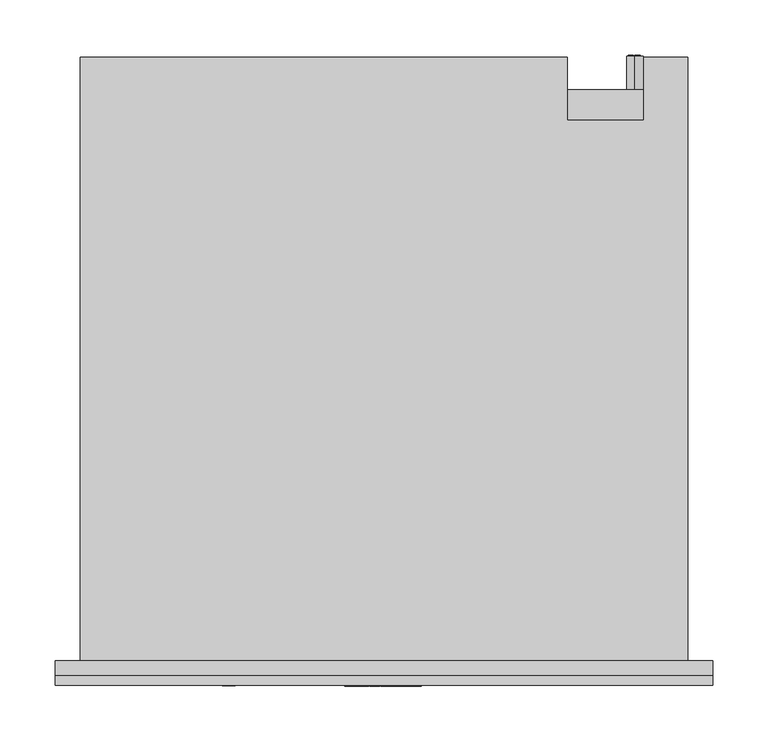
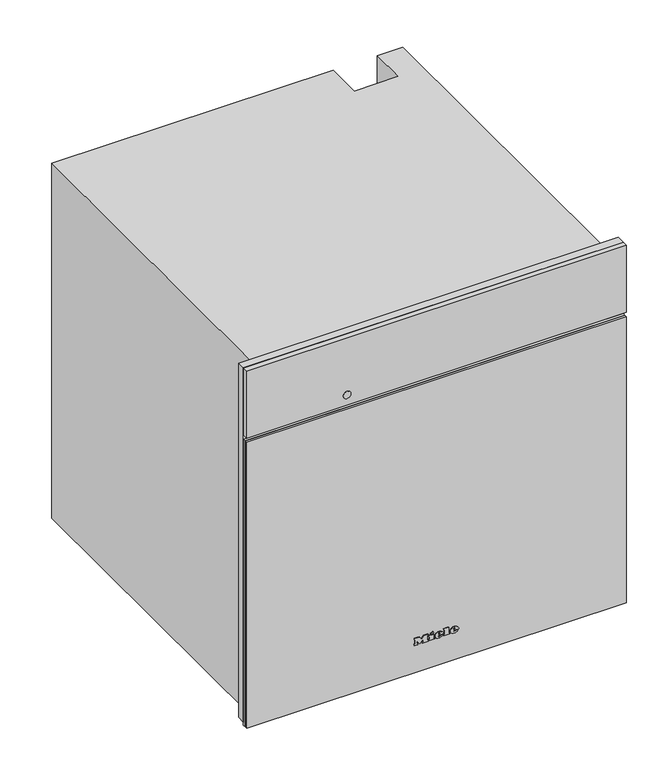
"""IFC4 building model written with IfcOpenShell, lengths in millimetres: proxy geometry, 11107290_D_DGC7860X_GRGR : 23786073_D_11107290_DGC7860X_GRGR."""

from ifc_helpers import new_model, si_unit, point, frame, frame_2d, origin, place, context, project, spatial, polyline, circle_curve, ellipse_curve, trimmed, segment, composite_curve, outline, extrude, faceted_brep, source, transform, mapped, element, save
from ifc_brep_helpers import plane_surface, cylinder_surface, revolved_surface, extruded_surface, advanced_brep


def specialty_equipment_f0ab52e3(model_context):
    return source(origin(), model_context, "Body", "SolidModel", [
        extrude(outline(polyline([(596.0, 297.5), (596.0, -297.5), (9.0, -297.5), (9.0, 297.5), (596.0, 297.5)]), holes=[polyline([(485.0, -272.5), (485.0, 272.5), (27.0, 272.5), (27.0, -272.5), (485.0, -272.5)])]), frame((0.0, -13.0, 0.0), z_axis=(0.0, 1.0, 0.0), x_axis=(0.0, 0.0, 1.0)), (0.0, 0.0, 1.0), 13.0),
        advanced_brep(
        [(227.0, 547.0, 396.5), (227.0, 547.0, 381.5), (221.4098301, 547.0, 384.0), (225.5, 547.0, 384.0), (225.5, 547.0, 394.0), (224.4955303, 547.0, 394.0), (224.4955303, 547.0, 385.0), (221.0315043, 547.0, 385.0), (221.0315043, 547.0, 384.4582978), (232.0, 547.0, 384.0), (232.0, 547.0, 394.0), (227.0, 547.0, 394.0), (227.0, 547.0, 393.0), (231.0, 547.0, 393.0), (231.0, 547.0, 389.5), (228.0, 547.0, 389.5), (228.0, 547.0, 388.5), (231.0, 547.0, 388.5), (231.0, 547.0, 385.0), (227.0, 547.0, 385.0), (227.0, 547.0, 384.0), (227.0, 517.0, 381.5), (227.0, 517.0, 396.5), (232.0, 548.0, 394.0), (232.0, 548.0, 384.0), (227.0, 548.0, 384.0), (227.0, 548.0, 385.0), (231.0, 548.0, 385.0), (231.0, 548.0, 388.5), (228.0, 548.0, 388.5), (228.0, 548.0, 389.5), (231.0, 548.0, 389.5), (231.0, 548.0, 393.0), (227.0, 548.0, 393.0), (227.0, 548.0, 394.0), (225.5, 548.0, 384.0), (221.0315043, 548.0, 384.0), (221.0315043, 548.0, 385.0), (224.4955303, 548.0, 385.0), (224.4955303, 548.0, 394.0), (225.5, 548.0, 394.0), (221.0315043, 547.0, 384.0)],
        [
            (0, 1, circle_curve(frame((227.0, 547.0, 389.0), z_axis=(0.0, 1.0, 0.0), x_axis=(0.0, 0.0, 1.0)), 7.5)),
            (1, 2, circle_curve(frame((227.0, 547.0, 389.0), z_axis=(0.0, 1.0, 0.0), x_axis=(0.0, 0.0, 1.0)), 7.5)),
            (2, 3),
            (3, 4),
            (4, 5),
            (5, 6),
            (6, 7),
            (7, 8),
            (8, 0, circle_curve(frame((227.0, 547.0, 389.0), z_axis=(0.0, 1.0, 0.0), x_axis=(0.0, 0.0, 1.0)), 7.5)),
            (9, 10),
            (10, 11),
            (11, 12),
            (12, 13),
            (13, 14),
            (14, 15),
            (15, 16),
            (16, 17),
            (17, 18),
            (18, 19),
            (19, 20),
            (20, 9),
            (21, 22, circle_curve(frame((227.0, 517.0, 389.0), z_axis=(0.0, -1.0, 0.0), x_axis=(0.0, 0.0, 1.0)), 7.5)),
            (22, 21, circle_curve(frame((227.0, 517.0, 389.0), z_axis=(0.0, -1.0, 0.0), x_axis=(0.0, 0.0, 1.0)), 7.5)),
            (0, 22),
            (21, 1),
            (8, 2, circle_curve(frame((227.0, 547.0, 389.0), z_axis=(0.0, -1.0, 0.0), x_axis=(0.0, 0.0, 1.0)), 7.5)),
            (23, 24),
            (24, 25),
            (25, 26),
            (26, 27),
            (27, 28),
            (28, 29),
            (29, 30),
            (30, 31),
            (31, 32),
            (32, 33),
            (33, 34),
            (34, 23),
            (35, 36),
            (36, 37),
            (37, 38),
            (38, 39),
            (39, 40),
            (40, 35),
            (8, 41),
            (41, 2),
            (23, 10),
            (9, 24),
            (20, 25),
            (19, 26),
            (18, 27),
            (17, 28),
            (16, 29),
            (15, 30),
            (14, 31),
            (13, 32),
            (12, 33),
            (11, 34),
            (35, 3),
            (41, 36),
            (7, 37),
            (6, 38),
            (5, 39),
            (4, 40),
        ],
        [
            plane_surface(frame((227.0, 547.0, 396.5), z_axis=(0.0, 1.0, 0.0), x_axis=(1.0, 0.0, 0.0))),
            plane_surface(frame((227.0, 517.0, 396.5), z_axis=(0.0, -1.0, 0.0), x_axis=(-1.0, 0.0, 0.0))),
            cylinder_surface(frame((227.0, 547.0, 389.0), z_axis=(0.0, -1.0, 0.0), x_axis=(0.0, 0.0, 1.0)), 7.5),
            plane_surface(frame((232.0, 548.0, 394.0), z_axis=(0.0, 1.0, 0.0), x_axis=(0.0, 0.0, -1.0))),
            plane_surface(frame((232.0, 547.0, 394.0), z_axis=(0.0, -1.0, 0.0), x_axis=(0.0, 0.0, 1.0))),
            plane_surface(frame((232.0, 548.0, 394.0), z_axis=(1.0, 0.0, 0.0), x_axis=(0.0, -1.0, 0.0))),
            plane_surface(frame((232.0, 548.0, 384.0), z_axis=(0.0, 0.0, -1.0), x_axis=(0.0, -1.0, 0.0))),
            plane_surface(frame((227.0, 548.0, 384.0), z_axis=(-1.0, 0.0, 0.0), x_axis=(0.0, -1.0, 0.0))),
            plane_surface(frame((227.0, 548.0, 385.0), z_axis=(0.0, 0.0, 1.0), x_axis=(0.0, -1.0, 0.0))),
            plane_surface(frame((231.0, 548.0, 385.0), z_axis=(-1.0, 0.0, 0.0), x_axis=(0.0, -1.0, 0.0))),
            plane_surface(frame((231.0, 548.0, 388.5), z_axis=(0.0, 0.0, -1.0), x_axis=(0.0, -1.0, 0.0))),
            plane_surface(frame((228.0, 548.0, 388.5), z_axis=(-1.0, 0.0, 0.0), x_axis=(0.0, -1.0, 0.0))),
            plane_surface(frame((228.0, 548.0, 389.5), z_axis=(0.0, 0.0, 1.0), x_axis=(0.0, -1.0, 0.0))),
            plane_surface(frame((231.0, 548.0, 389.5), z_axis=(-1.0, 0.0, 0.0), x_axis=(0.0, -1.0, 0.0))),
            plane_surface(frame((231.0, 548.0, 393.0), z_axis=(0.0, 0.0, -1.0), x_axis=(0.0, -1.0, 0.0))),
            plane_surface(frame((227.0, 548.0, 393.0), z_axis=(-1.0, 0.0, 0.0), x_axis=(0.0, -1.0, 0.0))),
            plane_surface(frame((227.0, 548.0, 394.0), z_axis=(0.0, 0.0, 1.0), x_axis=(0.0, -1.0, 0.0))),
            plane_surface(frame((225.5, 548.0, 384.0), z_axis=(0.0, 0.0, -1.0), x_axis=(0.0, -1.0, 0.0))),
            plane_surface(frame((221.0315043, 548.0, 384.0), z_axis=(-1.0, 0.0, 0.0), x_axis=(0.0, -1.0, 0.0))),
            plane_surface(frame((221.0315043, 548.0, 385.0), z_axis=(0.0, 0.0, 1.0), x_axis=(0.0, -1.0, 0.0))),
            plane_surface(frame((224.4955303, 548.0, 385.0), z_axis=(-1.0, 0.0, 0.0), x_axis=(0.0, -1.0, 0.0))),
            plane_surface(frame((224.4955303, 548.0, 394.0), z_axis=(0.0, 0.0, 1.0), x_axis=(0.0, -1.0, 0.0))),
            plane_surface(frame((225.5, 548.0, 394.0), z_axis=(1.0, 0.0, 0.0), x_axis=(0.0, -1.0, 0.0))),
        ],
        [
            (0, [[1, 2, 3, 4, 5, 6, 7, 8, 9], [10, 11, 12, 13, 14, 15, 16, 17, 18, 19, 20, 21]]),
            (1, [[22, 23]]),
            (2, [[-1, 24, -22, 25]]),
            (2, [[-23, -24, -9, 26, -2, -25]]),
            (3, [[27, 28, 29, 30, 31, 32, 33, 34, 35, 36, 37, 38]]),
            (3, [[39, 40, 41, 42, 43, 44]]),
            (4, [[45, 46, -26]]),
            (5, [[-27, 47, -10, 48]]),
            (6, [[-28, -48, -21, 49]]),
            (7, [[-29, -49, -20, 50]]),
            (8, [[-30, -50, -19, 51]]),
            (9, [[-31, -51, -18, 52]]),
            (10, [[-32, -52, -17, 53]]),
            (11, [[-33, -53, -16, 54]]),
            (12, [[-34, -54, -15, 55]]),
            (13, [[-35, -55, -14, 56]]),
            (14, [[-36, -56, -13, 57]]),
            (15, [[-37, -57, -12, 58]]),
            (16, [[-38, -58, -11, -47]]),
            (17, [[-39, 59, -3, -46, 60]]),
            (18, [[-40, -60, -45, -8, 61]]),
            (19, [[-41, -61, -7, 62]]),
            (20, [[-42, -62, -6, 63]]),
            (21, [[-43, -63, -5, 64]]),
            (22, [[-44, -64, -4, -59]]),
        ],
    ),
        faceted_brep([(-275.0, 546.0, 0.0), (-275.0, 546.0, 588.0), (166.0, 546.0, 588.0), (166.0, 546.0, 0.0), (235.0, 546.0, 588.0), (275.0, 546.0, 588.0), (275.0, 546.0, 478.0), (235.0, 546.0, 478.0), (275.0, 0.0, 588.0), (-275.0, 0.0, 588.0), (-275.0, 0.0, 0.0), (275.0, 0.0, 0.0), (-272.5, 0.0, 485.0), (272.5, 0.0, 485.0), (272.5, 0.0, 27.0), (-272.5, 0.0, 27.0), (235.0, 489.0, 588.0), (166.0, 489.0, 588.0), (166.0, 517.0, 0.0), (275.0, 517.0, 0.0), (275.0, 517.0, 478.0), (272.5, 17.0, 485.0), (-272.5, 17.0, 485.0), (-272.5, 17.0, 27.0), (272.5, 17.0, 27.0), (231.0, 17.0, 409.0), (231.0, 17.0, 61.0), (-231.0, 17.0, 61.0), (-231.0, 17.0, 409.0), (231.0, 411.0, 409.0), (-231.0, 411.0, 409.0), (-231.0, 411.0, 61.0), (231.0, 411.0, 61.0), (235.0, 489.0, 477.0), (166.0, 489.0, 477.0), (166.0, 517.0, 477.0), (235.0, 517.0, 477.0), (235.0, 517.0, 478.0)], [[[0, 1, 2, 3]], [[4, 5, 6, 7]], [[8, 9, 10, 11], [12, 13, 14, 15]], [[9, 8, 5, 4, 16, 17, 2, 1]], [[1, 0, 10, 9]], [[11, 10, 0, 3, 18, 19]], [[8, 11, 19, 20, 6, 5]], [[21, 22, 23, 24], [25, 26, 27, 28]], [[22, 21, 13, 12]], [[23, 22, 12, 15]], [[24, 23, 15, 14]], [[21, 24, 14, 13]], [[29, 30, 31, 32]], [[29, 32, 26, 25]], [[32, 31, 27, 26]], [[31, 30, 28, 27]], [[30, 29, 25, 28]], [[16, 33, 34, 17]], [[17, 34, 35, 18, 3, 2]], [[34, 33, 36, 35]], [[33, 16, 4, 7, 37, 36]], [[37, 20, 19, 18, 35, 36]], [[20, 37, 7, 6]]]),
        advanced_brep(
        [(26.2998, -23.0, 52.7018), (26.2998, -23.0, 53.8532), (33.9264, -23.0, 53.8532), (20.6568, -23.0, 53.8532), (23.7918, -23.0, 50.0), (33.7326, -23.0, 52.7018), (30.2898, -23.0, 52.7018), (27.5766, -23.0, 51.425), (26.2998, -23.0, 55.3124), (26.2998, -23.0, 56.555), (28.2492, -23.0, 56.555), (28.2492, -23.0, 55.3124), (26.2998, -22.0, 52.7018), (27.5766, -22.0, 51.425), (30.2898, -22.0, 52.7018), (33.7326, -22.0, 52.7018), (23.7918, -22.0, 50.0), (20.6568, -22.0, 53.8532), (33.9264, -22.0, 53.8532), (26.2998, -22.0, 53.8532), (26.2998, -22.0, 55.3124), (28.2492, -22.0, 55.3124), (28.2492, -22.0, 56.555), (26.2998, -22.0, 56.555)],
        [
            (0, 1),
            (1, 2),
            (2, 3, ellipse_curve(frame((27.2916, -23.0, 53.8532), z_axis=(0.0, -1.0, 0.0), x_axis=(-1.0, 0.0, 0.0)), 6.6348, 5.4834)),
            (3, 4, circle_curve(frame((25.0686622, -23.0, 54.2408), z_axis=(0.0, -1.0, 0.0), x_axis=(0.0, 0.0, -1.0)), 4.4288556)),
            (4, 5, circle_curve(frame((27.1587808, -23.0, 57.2504), z_axis=(0.0, -1.0, 0.0), x_axis=(0.0, 0.0, -1.0)), 7.9940516)),
            (5, 6),
            (6, 7, circle_curve(frame((28.1338588, -23.0, 53.762), z_axis=(0.0, 1.0, 0.0), x_axis=(0.0, 0.0, -1.0)), 2.4025208)),
            (7, 0, circle_curve(frame((27.5766, -23.0, 52.7018), z_axis=(0.0, 1.0, 0.0), x_axis=(0.0, 0.0, -1.0)), 1.2768)),
            (8, 9),
            (9, 10, circle_curve(frame((27.2745, -23.0, 56.555), z_axis=(0.0, 1.0, 0.0), x_axis=(0.0, 0.0, -1.0)), 0.9747)),
            (10, 11),
            (11, 8),
            (12, 13, circle_curve(frame((27.5766, -22.0, 52.7018), z_axis=(0.0, -1.0, 0.0), x_axis=(0.0, 0.0, -1.0)), 1.2768)),
            (13, 14, circle_curve(frame((28.1338588, -22.0, 53.762), z_axis=(0.0, -1.0, 0.0), x_axis=(0.0, 0.0, -1.0)), 2.4025208)),
            (14, 15),
            (15, 16, circle_curve(frame((27.1587808, -22.0, 57.2504), z_axis=(0.0, 1.0, 0.0), x_axis=(0.0, 0.0, -1.0)), 7.9940516)),
            (16, 17, circle_curve(frame((25.0686622, -22.0, 54.2408), z_axis=(0.0, 1.0, 0.0), x_axis=(0.0, 0.0, -1.0)), 4.4288556)),
            (17, 18, ellipse_curve(frame((27.2916, -22.0, 53.8532), z_axis=(0.0, 1.0, 0.0), x_axis=(-1.0, 0.0, 0.0)), 6.6348, 5.4834)),
            (18, 19),
            (19, 12),
            (20, 21),
            (21, 22),
            (22, 23, circle_curve(frame((27.2745, -22.0, 56.555), z_axis=(0.0, -1.0, 0.0), x_axis=(0.0, 0.0, -1.0)), 0.9747)),
            (23, 20),
            (0, 12),
            (19, 1),
            (18, 2),
            (5, 15),
            (14, 6),
            (17, 3),
            (13, 7),
            (16, 4),
            (8, 20),
            (23, 9),
            (22, 10),
            (21, 11),
        ],
        [
            plane_surface(frame((26.2998, -23.0, 53.8532), z_axis=(0.0, -1.0, 0.0), x_axis=(0.0, 0.0, 1.0))),
            plane_surface(frame((26.2998, -22.0, 53.8532), z_axis=(0.0, 1.0, 0.0), x_axis=(0.0, 0.0, -1.0))),
            plane_surface(frame((26.2998, -23.0, 52.7018), z_axis=(1.0, 0.0, 0.0), x_axis=(0.0, 1.0, 0.0))),
            plane_surface(frame((26.2998, -23.0, 53.8532), z_axis=(0.0, 0.0, -1.0), x_axis=(0.0, 1.0, 0.0))),
            plane_surface(frame((33.7326, -23.0, 52.7018), z_axis=(0.0, 0.0, 1.0), x_axis=(0.0, 1.0, 0.0))),
            extruded_surface(trimmed(ellipse_curve(frame((27.2916, -21.0, 53.8532), z_axis=(0.0, -1.0, 0.0), x_axis=(-1.0, 0.0, 0.0)), 6.6348, 5.4834), [point((33.9264, -21.0, 53.8532))], [point((20.6568, -21.0, 53.8532))], True, "CARTESIAN"), (0.0, -1.0, 0.0), 1.0),
            revolved_surface(polyline([(28.1338588, -22.0, 51.3594792), (28.1338588, -23.0, 51.3594792)]), (28.1338588, -22.0, 53.762), (0.0, 1.0, 0.0)),
            revolved_surface(polyline([(27.5766, -22.0, 51.425), (27.5766, -23.0, 51.425)]), (27.5766, -22.0, 52.7018), (0.0, 1.0, 0.0)),
            cylinder_surface(frame((25.0686622, -22.0, 54.2408), z_axis=(0.0, -1.0, 0.0), x_axis=(0.0, 0.0, -1.0)), 4.4288556),
            cylinder_surface(frame((27.1587808, -22.0, 57.2504), z_axis=(0.0, -1.0, 0.0), x_axis=(0.0, 0.0, -1.0)), 7.9940516),
            plane_surface(frame((26.2998, -23.0, 55.3124), z_axis=(1.0, 0.0, 0.0), x_axis=(0.0, 1.0, 0.0))),
            revolved_surface(polyline([(27.2745, -22.0, 55.5803), (27.2745, -23.0, 55.5803)]), (27.2745, -22.0, 56.555), (0.0, 1.0, 0.0)),
            plane_surface(frame((28.2492, -23.0, 56.555), z_axis=(-1.0, 0.0, 0.0), x_axis=(0.0, 1.0, 0.0))),
            plane_surface(frame((28.2492, -23.0, 55.3124), z_axis=(0.0, 0.0, 1.0), x_axis=(0.0, 1.0, 0.0))),
        ],
        [
            (0, [[1, 2, 3, 4, 5, 6, 7, 8], [9, 10, 11, 12]]),
            (1, [[13, 14, 15, 16, 17, 18, 19, 20], [21, 22, 23, 24]]),
            (2, [[-1, 25, -20, 26]]),
            (3, [[-2, -26, -19, 27]]),
            (4, [[-6, 28, -15, 29]]),
            (5, [[-3, -27, -18, 30]]),
            (6, [[-7, -29, -14, 31]]),
            (7, [[-8, -31, -13, -25]]),
            (8, [[-4, -30, -17, 32]]),
            (9, [[-5, -32, -16, -28]]),
            (10, [[-9, 33, -24, 34]]),
            (11, [[-10, -34, -23, 35]]),
            (12, [[-11, -35, -22, 36]]),
            (13, [[-12, -36, -21, -33]]),
        ],
    ),
        advanced_brep(
        [(2.508, -23.0, 52.7018), (2.508, -23.0, 53.8532), (10.1346, -23.0, 53.8532), (-3.135, -23.0, 53.8532), (0.0, -23.0, 50.0), (9.9408, -23.0, 52.7018), (6.498, -23.0, 52.7018), (3.7848, -23.0, 51.425), (2.508, -23.0, 55.3124), (2.508, -23.0, 56.555), (4.4574, -23.0, 56.555), (4.4574, -23.0, 55.3124), (2.508, -22.0, 52.7018), (3.7848, -22.0, 51.425), (6.498, -22.0, 52.7018), (9.9408, -22.0, 52.7018), (0.0, -22.0, 50.0), (-3.135, -22.0, 53.8532), (10.1346, -22.0, 53.8532), (2.508, -22.0, 53.8532), (2.508, -22.0, 55.3124), (4.4574, -22.0, 55.3124), (4.4574, -22.0, 56.555), (2.508, -22.0, 56.555)],
        [
            (0, 1),
            (1, 2),
            (2, 3, ellipse_curve(frame((3.4998, -23.0, 53.8532), z_axis=(0.0, -1.0, 0.0), x_axis=(-1.0, 0.0, 0.0)), 6.6348, 5.4834)),
            (3, 4, circle_curve(frame((1.2768622, -23.0, 54.2408), z_axis=(0.0, -1.0, 0.0), x_axis=(0.0, 0.0, -1.0)), 4.4288556)),
            (4, 5, circle_curve(frame((3.3669808, -23.0, 57.2504), z_axis=(0.0, -1.0, 0.0), x_axis=(0.0, 0.0, -1.0)), 7.9940516)),
            (5, 6),
            (6, 7, circle_curve(frame((4.3420588, -23.0, 53.762), z_axis=(0.0, 1.0, 0.0), x_axis=(0.0, 0.0, -1.0)), 2.4025208)),
            (7, 0, circle_curve(frame((3.7848, -23.0, 52.7018), z_axis=(0.0, 1.0, 0.0), x_axis=(0.0, 0.0, -1.0)), 1.2768)),
            (8, 9),
            (9, 10, circle_curve(frame((3.4827, -23.0, 56.555), z_axis=(0.0, 1.0, 0.0), x_axis=(0.0, 0.0, -1.0)), 0.9747)),
            (10, 11),
            (11, 8),
            (12, 13, circle_curve(frame((3.7848, -22.0, 52.7018), z_axis=(0.0, -1.0, 0.0), x_axis=(0.0, 0.0, -1.0)), 1.2768)),
            (13, 14, circle_curve(frame((4.3420588, -22.0, 53.762), z_axis=(0.0, -1.0, 0.0), x_axis=(0.0, 0.0, -1.0)), 2.4025208)),
            (14, 15),
            (15, 16, circle_curve(frame((3.3669808, -22.0, 57.2504), z_axis=(0.0, 1.0, 0.0), x_axis=(0.0, 0.0, -1.0)), 7.9940516)),
            (16, 17, circle_curve(frame((1.2768622, -22.0, 54.2408), z_axis=(0.0, 1.0, 0.0), x_axis=(0.0, 0.0, -1.0)), 4.4288556)),
            (17, 18, ellipse_curve(frame((3.4998, -22.0, 53.8532), z_axis=(0.0, 1.0, 0.0), x_axis=(-1.0, 0.0, 0.0)), 6.6348, 5.4834)),
            (18, 19),
            (19, 12),
            (20, 21),
            (21, 22),
            (22, 23, circle_curve(frame((3.4827, -22.0, 56.555), z_axis=(0.0, -1.0, 0.0), x_axis=(0.0, 0.0, -1.0)), 0.9747)),
            (23, 20),
            (0, 12),
            (19, 1),
            (18, 2),
            (5, 15),
            (14, 6),
            (17, 3),
            (13, 7),
            (16, 4),
            (8, 20),
            (23, 9),
            (22, 10),
            (21, 11),
        ],
        [
            plane_surface(frame((2.508, -23.0, 53.8532), z_axis=(0.0, -1.0, 0.0), x_axis=(0.0, 0.0, 1.0))),
            plane_surface(frame((2.508, -22.0, 53.8532), z_axis=(0.0, 1.0, 0.0), x_axis=(0.0, 0.0, -1.0))),
            plane_surface(frame((2.508, -23.0, 52.7018), z_axis=(1.0, 0.0, 0.0), x_axis=(0.0, 1.0, 0.0))),
            plane_surface(frame((2.508, -23.0, 53.8532), z_axis=(0.0, 0.0, -1.0), x_axis=(0.0, 1.0, 0.0))),
            plane_surface(frame((9.9408, -23.0, 52.7018), z_axis=(0.0, 0.0, 1.0), x_axis=(0.0, 1.0, 0.0))),
            extruded_surface(trimmed(ellipse_curve(frame((3.4998, -21.0, 53.8532), z_axis=(0.0, -1.0, 0.0), x_axis=(-1.0, 0.0, 0.0)), 6.6348, 5.4834), [point((10.1346, -21.0, 53.8532))], [point((-3.135, -21.0, 53.8532))], True, "CARTESIAN"), (0.0, -1.0, 0.0), 1.0),
            revolved_surface(polyline([(4.3420588, -22.0, 51.3594792), (4.3420588, -23.0, 51.3594792)]), (4.3420588, -22.0, 53.762), (0.0, 1.0, 0.0)),
            revolved_surface(polyline([(3.7848, -22.0, 51.425), (3.7848, -23.0, 51.425)]), (3.7848, -22.0, 52.7018), (0.0, 1.0, 0.0)),
            cylinder_surface(frame((1.2768622, -22.0, 54.2408), z_axis=(0.0, -1.0, 0.0), x_axis=(0.0, 0.0, -1.0)), 4.4288556),
            cylinder_surface(frame((3.3669808, -22.0, 57.2504), z_axis=(0.0, -1.0, 0.0), x_axis=(0.0, 0.0, -1.0)), 7.9940516),
            plane_surface(frame((2.508, -23.0, 55.3124), z_axis=(1.0, 0.0, 0.0), x_axis=(0.0, 1.0, 0.0))),
            revolved_surface(polyline([(3.4827, -22.0, 55.5803), (3.4827, -23.0, 55.5803)]), (3.4827, -22.0, 56.555), (0.0, 1.0, 0.0)),
            plane_surface(frame((4.4574, -23.0, 56.555), z_axis=(-1.0, 0.0, 0.0), x_axis=(0.0, 1.0, 0.0))),
            plane_surface(frame((4.4574, -23.0, 55.3124), z_axis=(0.0, 0.0, 1.0), x_axis=(0.0, 1.0, 0.0))),
        ],
        [
            (0, [[1, 2, 3, 4, 5, 6, 7, 8], [9, 10, 11, 12]]),
            (1, [[13, 14, 15, 16, 17, 18, 19, 20], [21, 22, 23, 24]]),
            (2, [[-1, 25, -20, 26]]),
            (3, [[-2, -26, -19, 27]]),
            (4, [[-6, 28, -15, 29]]),
            (5, [[-3, -27, -18, 30]]),
            (6, [[-7, -29, -14, 31]]),
            (7, [[-8, -31, -13, -25]]),
            (8, [[-4, -30, -17, 32]]),
            (9, [[-5, -32, -16, -28]]),
            (10, [[-9, 33, -24, 34]]),
            (11, [[-10, -34, -23, 35]]),
            (12, [[-11, -35, -22, 36]]),
            (13, [[-12, -36, -21, -33]]),
        ],
    ),
        extrude(outline(polyline([(60.7274, -9.9522), (58.8806, -9.0858), (60.6818, -5.2212), (62.5286, -6.0762), (60.7274, -9.9522)])), frame((0.0, -23.0, 0.0), z_axis=(0.0, 1.0, 0.0), x_axis=(0.0, 0.0, 1.0)), (0.0, 0.0, 1.0), 1.0),
        extrude(outline(polyline([(58.6298, -12.768), (56.5892, -12.768), (56.5892, -11.4114), (51.9152, -11.4114), (51.9152, -12.768), (50.0, -12.768), (50.0, -3.7734), (51.9152, -3.7734), (51.9152, -5.0958), (58.6298, -5.0958), (58.6298, -12.768)])), frame((0.0, -23.0, 0.0), z_axis=(0.0, 1.0, 0.0), x_axis=(0.0, 0.0, 1.0)), (0.0, 0.0, 1.0), 1.0),
        extrude(outline(polyline([(59.5418, 10.773), (59.5418, 12.141), (51.9152, 12.141), (51.9152, 10.773), (50.0, 10.773), (50.0, 20.0184), (51.9152, 20.0184), (51.9152, 18.6162), (61.4, 18.6162), (61.4, 10.773), (59.5418, 10.773)])), frame((0.0, -23.0, 0.0), z_axis=(0.0, 1.0, 0.0), x_axis=(0.0, 0.0, 1.0)), (0.0, 0.0, 1.0), 1.0),
        extrude(outline(polyline([(59.5418, -35.4882), (59.5418, -34.1088), (51.9152, -34.1088), (51.9152, -35.4882), (50.0, -35.4882), (50.0, -30.4722), (51.9152, -30.4722), (51.9152, -31.8402), (56.7429247, -31.8402), (50.0, -26.7444), (56.9402223, -21.6258), (51.9152, -21.6258), (51.9152, -23.028), (50.0, -23.028), (50.0, -13.9308), (51.9152, -13.9308), (51.9152, -15.3786), (59.5418, -15.3786), (59.5418, -13.9308), (61.4, -13.9308), (61.4, -20.8734), (57.125, -24.2022), (61.4, -27.5424), (61.4, -35.4882), (59.5418, -35.4882)])), frame((0.0, -23.0, 0.0), z_axis=(0.0, 1.0, 0.0), x_axis=(0.0, 0.0, 1.0)), (0.0, 0.0, 1.0), 1.0),
        extrude(outline(polyline([(297.5, -22.0), (-297.5, -22.0), (-297.5, -13.0), (297.5, -13.0), (297.5, -22.0)])), frame((0.0, 0.0, 485.0), z_axis=(0.0, 0.0, 1.0), x_axis=(1.0, 0.0, 0.0)), (0.0, 0.0, 1.0), 111.0),
        extrude(outline(composite_curve([segment(trimmed(circle_curve(frame_2d((502.0, -140.5745637)), 6.0), [point((502.0, -146.5745637))], [point((502.0, -134.5745637))], False, "CARTESIAN"), True, "CONTINUOUS"), segment(trimmed(circle_curve(frame_2d((502.0, -140.5745637)), 6.0), [point((502.0, -134.5745637))], [point((502.0, -146.5745637))], False, "CARTESIAN"), True, "CONTINUOUS")], self_intersect=False)), frame((0.0, -22.5, 0.0), z_axis=(0.0, 1.0, 0.0), x_axis=(0.0, 0.0, 1.0)), (0.0, 0.0, 1.0), 1.0),
        extrude(outline(polyline([(297.5, -18.0), (-297.5, -18.0), (-297.5, -13.0), (297.5, -13.0), (297.5, -18.0)])), frame((0.0, 0.0, 4.0), z_axis=(0.0, 0.0, 1.0), x_axis=(1.0, 0.0, 0.0)), (0.0, 0.0, 1.0), 474.0),
        extrude(outline(polyline([(-297.5, -18.0), (297.5, -18.0), (297.5, -22.0), (-297.5, -22.0), (-297.5, -18.0)])), frame((0.0, 0.0, 4.0), z_axis=(0.0, 0.0, 1.0), x_axis=(1.0, 0.0, 0.0)), (0.0, 0.0, 1.0), 474.0),
    ])


if __name__ == "__main__":
    model = new_model("IFC4")
    model_context = context("Model", 3, world=origin())
    ifc_project = project(units=[si_unit("LENGTHUNIT", "METRE", prefix="MILLI")], contexts=[model_context])
    site = spatial("IfcSite", under=ifc_project)
    building = spatial("IfcBuilding", under=site)
    placement = place(None, origin())
    specialty_equipment_shape = specialty_equipment_f0ab52e3(model_context)
    element("IfcBuildingElementProxy", 1, Name="11107290_D_DGC7860X_GRGR : 23786073_D_11107290_DGC7860X_GRGR", ObjectType="11107290_D_DGC7860X_GRGR : 23786073_D_11107290_DGC7860X_GRGR", at=placement, inside=building, context=model_context, shape_type="MappedRepresentation", body=[
        mapped(specialty_equipment_shape, transform((0.0, 0.0, 0.0), x_axis=(1.0, 0.0, 0.0), y_axis=(0.0, 1.0, 0.0), z_axis=(0.0, 0.0, 1.0))),
    ])
    save(model, "model.ifc")
